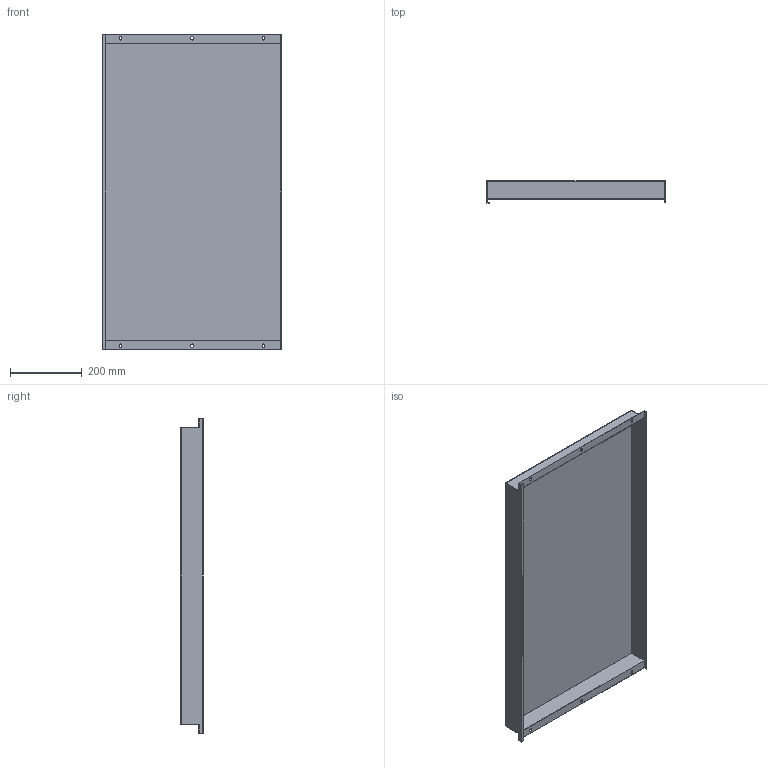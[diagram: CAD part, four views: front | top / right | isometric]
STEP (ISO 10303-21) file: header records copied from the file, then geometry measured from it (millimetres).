
FILE_DESCRIPTION (( 'STEP AP214' ), '1' );
FILE_NAME ('FO-00-PVSU-050-100 Ïëàñòðîí âíóòðåííèé óãëóáëåííûé 500õ1000õ50.STEP', '2025-08-26T11:04:58', ( '' ), ( '' ), 'SwSTEP 2.0', 'SolidWorks 2023', '' );
FILE_SCHEMA (( 'AUTOMOTIVE_DESIGN' ));
Length unit declared in the file: millimetre
Products named in the file (1): FO-00-PVSU-050-100 Пластрон внутренний углубленный 500х1000х50
Bounding box: 498 x 62.5 x 879 mm (x, y, z)
Volume: 830609.4 mm3; surface area: 1190748.6 mm2
Topology: 1 solids, 1 shells, 52 faces, 150 edges, 100 vertices
Faces by surface type: plane 34, cylinder 18
Entity records: 1757 total; most frequent: CARTESIAN_POINT 303, ORIENTED_EDGE 300, DIRECTION 292, EDGE_CURVE 150, VECTOR 114, LINE 114, VERTEX_POINT 100, AXIS2_PLACEMENT_3D 89
